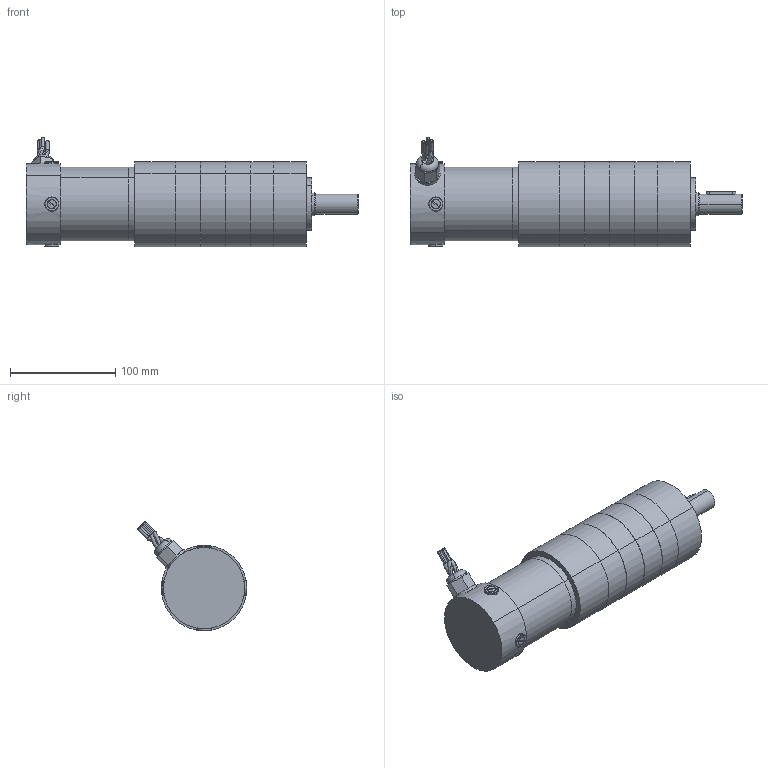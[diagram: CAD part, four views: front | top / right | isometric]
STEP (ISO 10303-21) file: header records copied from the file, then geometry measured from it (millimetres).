
FILE_DESCRIPTION (( 'STEP AP203' ), '1' );
FILE_NAME ('s27411agp4.step', '2018-12-07T20:00:32', ( '' ), ( '' ), 'SwSTEP 2.0', 'SolidWorks 2017', '' );
FILE_SCHEMA (( 'CONFIG_CONTROL_DESIGN' ));
Length unit declared in the file: inch
Products named in the file (1): s27411agp4
Bounding box: 314.82 x 103.57 x 103.57 mm (x, y, z)
Volume: 1305581.1 mm3; surface area: 165260.1 mm2
Topology: 21 solids, 21 shells, 505 faces, 1096 edges, 665 vertices
Faces by surface type: plane 220, cylinder 181, cone 57, torus 31, bspline 8, sphere 8
Entity records: 14737 total; most frequent: CARTESIAN_POINT 3380, DIRECTION 2593, ORIENTED_EDGE 2160, EDGE_CURVE 1080, AXIS2_PLACEMENT_3D 1061, VERTEX_POINT 665, EDGE_LOOP 573, CIRCLE 563
